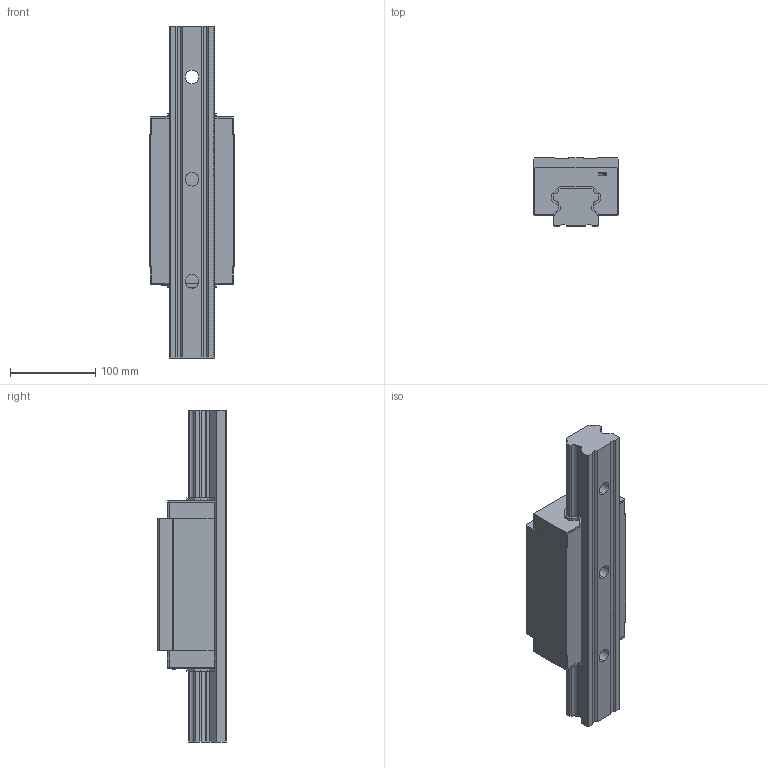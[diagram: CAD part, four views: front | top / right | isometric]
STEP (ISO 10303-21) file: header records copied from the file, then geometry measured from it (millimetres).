
FILE_DESCRIPTION (( 'STEP AP214' ), '1' );
FILE_NAME ('7.1029 Lineaarikelkka HTH55HA.STEP', '2026-03-11T07:02:41', ( '' ), ( '' ), 'SwSTEP 2.0', 'SolidWorks 2025', '' );
FILE_SCHEMA (( 'AUTOMOTIVE_DESIGN' ));
Length unit declared in the file: millimetre
Products named in the file (5): HG_RAIL0_R_ANY; ENDSEAL__W___ANY; HG_BLOCK_HGHHA_ANY; 7.1029 Lineaarikelkka HTH55HA; HG_BLOCK_SS_ANY_ASM
Assembly tree (5 placements, depth 3):
  7.1029 Lineaarikelkka HTH55HA
    HG_BLOCK_SS_ANY_ASM
      ENDSEAL__W___ANY  x2
      HG_BLOCK_HGHHA_ANY
    HG_RAIL0_R_ANY
Bounding box: 100 x 80 x 390 mm (x, y, z)
Volume: 1738021.1 mm3; surface area: 199923 mm2
Topology: 4 solids, 4 shells, 385 faces, 1068 edges, 708 vertices
Faces by surface type: plane 292, cylinder 44, bspline 41, cone 8
Entity records: 16001 total; most frequent: CARTESIAN_POINT 4973, ORIENTED_EDGE 1652, DIRECTION 1398, EDGE_CURVE 826, VECTOR 676, LINE 676, VERTEX_POINT 552, AXIS2_PLACEMENT_3D 361
